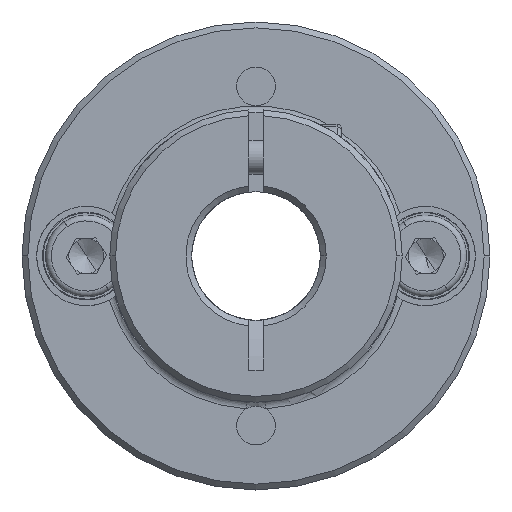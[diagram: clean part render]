
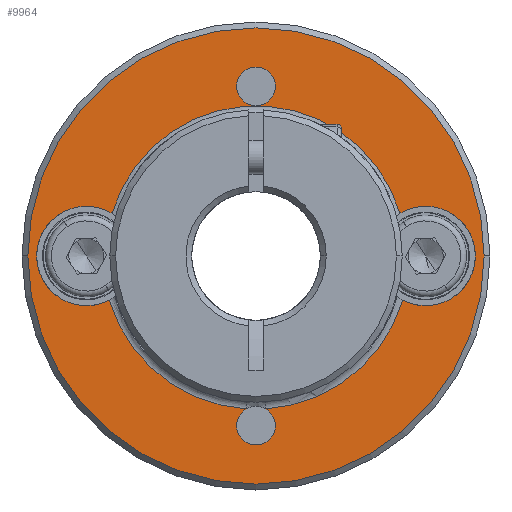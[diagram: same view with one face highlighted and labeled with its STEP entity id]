
A CAD part, front view. The second image highlights one B-rep face of the part: STEP entity #9964.
In plain terms, the highlighted planar face has unit normal (0, -1, 0).
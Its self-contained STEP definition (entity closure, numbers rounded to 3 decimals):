
#209 = ORIENTED_EDGE ( 'NONE', *, *, #12214, .T. ) ;
#256 = CARTESIAN_POINT ( 'NONE',  ( 6.745, -13.63, 40. ) ) ;
#330 = AXIS2_PLACEMENT_3D ( 'NONE', #5366, #1299, #7157 ) ;
#436 = CIRCLE ( 'NONE', #4893, 4.25 ) ;
#499 = EDGE_CURVE ( 'NONE', #5381, #10921, #7078, .T. ) ;
#591 = AXIS2_PLACEMENT_3D ( 'NONE', #2245, #9118, #4207 ) ;
#791 = VERTEX_POINT ( 'NONE', #7278 ) ;
#816 = DIRECTION ( 'NONE',  ( 0., 1., 0. ) ) ;
#820 = CIRCLE ( 'NONE', #8168, 4.25 ) ;
#869 = DIRECTION ( 'NONE',  ( 0., 1., 0. ) ) ;
#930 = ORIENTED_EDGE ( 'NONE', *, *, #5761, .T. ) ;
#975 = DIRECTION ( 'NONE',  ( 1., 0., 0. ) ) ;
#986 = DIRECTION ( 'NONE',  ( 0., -1., 0. ) ) ;
#1019 = ORIENTED_EDGE ( 'NONE', *, *, #8368, .T. ) ;
#1157 = CARTESIAN_POINT ( 'NONE',  ( -13.655, -13.63, 25.5 ) ) ;
#1216 = ORIENTED_EDGE ( 'NONE', *, *, #4668, .T. ) ;
#1274 = ORIENTED_EDGE ( 'NONE', *, *, #4479, .T. ) ;
#1295 = CARTESIAN_POINT ( 'NONE',  ( -24.307, -13.63, 43.638 ) ) ;
#1299 = DIRECTION ( 'NONE',  ( 0., -1., 0. ) ) ;
#1344 = DIRECTION ( 'NONE',  ( 1., 0., 0. ) ) ;
#1684 = CARTESIAN_POINT ( 'NONE',  ( 7.495, -13.63, 40. ) ) ;
#1743 = AXIS2_PLACEMENT_3D ( 'NONE', #8625, #2826, #12536 ) ;
#1805 = ORIENTED_EDGE ( 'NONE', *, *, #12613, .T. ) ;
#1837 = AXIS2_PLACEMENT_3D ( 'NONE', #7908, #986, #6781 ) ;
#1994 = CARTESIAN_POINT ( 'NONE',  ( -13.655, -13.63, 54.5 ) ) ;
#2041 = VERTEX_POINT ( 'NONE', #256 ) ;
#2130 = AXIS2_PLACEMENT_3D ( 'NONE', #3949, #3005, #9895 ) ;
#2222 = EDGE_CURVE ( 'NONE', #8098, #8313, #8996, .T. ) ;
#2245 = CARTESIAN_POINT ( 'NONE',  ( -12.005, -13.63, 40. ) ) ;
#2262 = CARTESIAN_POINT ( 'NONE',  ( -26.505, -13.63, 40. ) ) ;
#2510 = CARTESIAN_POINT ( 'NONE',  ( -12.834, -13.63, 26.926 ) ) ;
#2826 = DIRECTION ( 'NONE',  ( 0., 1., 0. ) ) ;
#2849 = CIRCLE ( 'NONE', #12011, 4.25 ) ;
#2976 = CARTESIAN_POINT ( 'NONE',  ( -10.355, -13.63, 25.5 ) ) ;
#3005 = DIRECTION ( 'NONE',  ( 0., -1., 0. ) ) ;
#3138 = FACE_OUTER_BOUND ( 'NONE', #9998, .T. ) ;
#3874 = DIRECTION ( 'NONE',  ( 1., 0., 0. ) ) ;
#3890 = VERTEX_POINT ( 'NONE', #1994 ) ;
#3949 = CARTESIAN_POINT ( 'NONE',  ( -12.005, -13.63, 40. ) ) ;
#4207 = DIRECTION ( 'NONE',  ( 1., 0., 0. ) ) ;
#4239 = AXIS2_PLACEMENT_3D ( 'NONE', #4907, #11692, #975 ) ;
#4420 = ORIENTED_EDGE ( 'NONE', *, *, #10408, .T. ) ;
#4468 = CIRCLE ( 'NONE', #8197, 1.65 ) ;
#4479 = EDGE_CURVE ( 'NONE', #11056, #5381, #10470, .T. ) ;
#4668 = EDGE_CURVE ( 'NONE', #11290, #11056, #4922, .T. ) ;
#4684 = DIRECTION ( 'NONE',  ( 1., 0., 0. ) ) ;
#4763 = ORIENTED_EDGE ( 'NONE', *, *, #499, .T. ) ;
#4893 = AXIS2_PLACEMENT_3D ( 'NONE', #6717, #7717, #4684 ) ;
#4907 = CARTESIAN_POINT ( 'NONE',  ( -12.005, -13.63, 25.5 ) ) ;
#4922 = CIRCLE ( 'NONE', #591, 13.1 ) ;
#5072 = CIRCLE ( 'NONE', #1837, 19.5 ) ;
#5139 = CARTESIAN_POINT ( 'NONE',  ( -31.505, -13.63, 40. ) ) ;
#5184 = CIRCLE ( 'NONE', #4239, 1.65 ) ;
#5366 = CARTESIAN_POINT ( 'NONE',  ( -12.005, -13.63, 40. ) ) ;
#5381 = VERTEX_POINT ( 'NONE', #2976 ) ;
#5451 = AXIS2_PLACEMENT_3D ( 'NONE', #11631, #10661, #9718 ) ;
#5743 = CARTESIAN_POINT ( 'NONE',  ( -26.505, -13.63, 40. ) ) ;
#5761 = EDGE_CURVE ( 'NONE', #11044, #3890, #9286, .T. ) ;
#5797 = EDGE_CURVE ( 'NONE', #11837, #6839, #820, .T. ) ;
#6138 = DIRECTION ( 'NONE',  ( 1., 0., 0. ) ) ;
#6139 = DIRECTION ( 'NONE',  ( 0., 1., 0. ) ) ;
#6297 = CARTESIAN_POINT ( 'NONE',  ( -10.355, -13.63, 54.5 ) ) ;
#6315 = ORIENTED_EDGE ( 'NONE', *, *, #9032, .T. ) ;
#6632 = AXIS2_PLACEMENT_3D ( 'NONE', #8687, #869, #3874 ) ;
#6651 = DIRECTION ( 'NONE',  ( 1., 0., 0. ) ) ;
#6717 = CARTESIAN_POINT ( 'NONE',  ( 2.495, -13.63, 40. ) ) ;
#6781 = DIRECTION ( 'NONE',  ( 1., 0., 0. ) ) ;
#6803 = CIRCLE ( 'NONE', #11119, 4.25 ) ;
#6839 = VERTEX_POINT ( 'NONE', #1295 ) ;
#6935 = CARTESIAN_POINT ( 'NONE',  ( -24.55, -13.63, 36.226 ) ) ;
#7078 = CIRCLE ( 'NONE', #5451, 1.65 ) ;
#7157 = DIRECTION ( 'NONE',  ( 1., 0., 0. ) ) ;
#7203 = DIRECTION ( 'NONE',  ( 0., 1., 0. ) ) ;
#7239 = EDGE_CURVE ( 'NONE', #10917, #9842, #5072, .T. ) ;
#7278 = CARTESIAN_POINT ( 'NONE',  ( 0.298, -13.63, 43.638 ) ) ;
#7317 = CARTESIAN_POINT ( 'NONE',  ( -11.175, -13.63, 26.926 ) ) ;
#7652 = CARTESIAN_POINT ( 'NONE',  ( 0.54, -13.63, 36.226 ) ) ;
#7717 = DIRECTION ( 'NONE',  ( 0., 1., 0. ) ) ;
#7893 = ORIENTED_EDGE ( 'NONE', *, *, #7239, .T. ) ;
#7905 = PLANE ( 'NONE',  #2130 ) ;
#7908 = CARTESIAN_POINT ( 'NONE',  ( -12.005, -13.63, 40. ) ) ;
#7997 = CARTESIAN_POINT ( 'NONE',  ( -12.005, -13.63, 25.5 ) ) ;
#8098 = VERTEX_POINT ( 'NONE', #2510 ) ;
#8168 = AXIS2_PLACEMENT_3D ( 'NONE', #5743, #816, #6651 ) ;
#8182 = CARTESIAN_POINT ( 'NONE',  ( -12.005, -13.63, 40. ) ) ;
#8197 = AXIS2_PLACEMENT_3D ( 'NONE', #9172, #10279, #1344 ) ;
#8313 = VERTEX_POINT ( 'NONE', #6935 ) ;
#8368 = EDGE_CURVE ( 'NONE', #6839, #791, #9334, .T. ) ;
#8585 = EDGE_LOOP ( 'NONE', ( #6315, #11937, #1019, #9814, #1805, #1216, #1274, #4763, #209, #10410 ) ) ;
#8625 = CARTESIAN_POINT ( 'NONE',  ( -12.005, -13.63, 54.5 ) ) ;
#8687 = CARTESIAN_POINT ( 'NONE',  ( -12.005, -13.63, 40. ) ) ;
#8996 = CIRCLE ( 'NONE', #6632, 13.1 ) ;
#9032 = EDGE_CURVE ( 'NONE', #8313, #11837, #2849, .T. ) ;
#9047 = DIRECTION ( 'NONE',  ( 1., 0., 0. ) ) ;
#9076 = CARTESIAN_POINT ( 'NONE',  ( 2.495, -13.63, 40. ) ) ;
#9118 = DIRECTION ( 'NONE',  ( 0., 1., 0. ) ) ;
#9129 = FACE_BOUND ( 'NONE', #8585, .T. ) ;
#9172 = CARTESIAN_POINT ( 'NONE',  ( -12.005, -13.63, 54.5 ) ) ;
#9286 = CIRCLE ( 'NONE', #1743, 1.65 ) ;
#9334 = CIRCLE ( 'NONE', #12509, 12.829 ) ;
#9718 = DIRECTION ( 'NONE',  ( 1., 0., 0. ) ) ;
#9814 = ORIENTED_EDGE ( 'NONE', *, *, #10390, .T. ) ;
#9824 = DIRECTION ( 'NONE',  ( 1., 0., 0. ) ) ;
#9842 = VERTEX_POINT ( 'NONE', #1684 ) ;
#9863 = DIRECTION ( 'NONE',  ( 0., 1., 0. ) ) ;
#9895 = DIRECTION ( 'NONE',  ( 1., 0., 0. ) ) ;
#9964 = ADVANCED_FACE ( 'NONE', ( #3138, #9129, #11139 ), #7905, .T. ) ;
#9998 = EDGE_LOOP ( 'NONE', ( #7893, #4420 ) ) ;
#10045 = CIRCLE ( 'NONE', #330, 19.5 ) ;
#10159 = DIRECTION ( 'NONE',  ( 1., 0., 0. ) ) ;
#10279 = DIRECTION ( 'NONE',  ( 0., 1., 0. ) ) ;
#10377 = ORIENTED_EDGE ( 'NONE', *, *, #10513, .T. ) ;
#10390 = EDGE_CURVE ( 'NONE', #791, #2041, #6803, .T. ) ;
#10408 = EDGE_CURVE ( 'NONE', #9842, #10917, #10045, .T. ) ;
#10410 = ORIENTED_EDGE ( 'NONE', *, *, #2222, .T. ) ;
#10470 = CIRCLE ( 'NONE', #12051, 1.65 ) ;
#10513 = EDGE_CURVE ( 'NONE', #3890, #11044, #4468, .T. ) ;
#10661 = DIRECTION ( 'NONE',  ( 0., 1., 0. ) ) ;
#10917 = VERTEX_POINT ( 'NONE', #5139 ) ;
#10921 = VERTEX_POINT ( 'NONE', #1157 ) ;
#11044 = VERTEX_POINT ( 'NONE', #6297 ) ;
#11056 = VERTEX_POINT ( 'NONE', #7317 ) ;
#11119 = AXIS2_PLACEMENT_3D ( 'NONE', #9076, #6139, #10159 ) ;
#11139 = FACE_BOUND ( 'NONE', #12510, .T. ) ;
#11290 = VERTEX_POINT ( 'NONE', #7652 ) ;
#11631 = CARTESIAN_POINT ( 'NONE',  ( -12.005, -13.63, 25.5 ) ) ;
#11692 = DIRECTION ( 'NONE',  ( 0., 1., 0. ) ) ;
#11837 = VERTEX_POINT ( 'NONE', #12015 ) ;
#11937 = ORIENTED_EDGE ( 'NONE', *, *, #5797, .T. ) ;
#11995 = DIRECTION ( 'NONE',  ( 0., 1., 0. ) ) ;
#12011 = AXIS2_PLACEMENT_3D ( 'NONE', #2262, #11995, #9047 ) ;
#12015 = CARTESIAN_POINT ( 'NONE',  ( -30.755, -13.63, 40. ) ) ;
#12051 = AXIS2_PLACEMENT_3D ( 'NONE', #7997, #9863, #9824 ) ;
#12214 = EDGE_CURVE ( 'NONE', #10921, #8098, #5184, .T. ) ;
#12509 = AXIS2_PLACEMENT_3D ( 'NONE', #8182, #7203, #6138 ) ;
#12510 = EDGE_LOOP ( 'NONE', ( #10377, #930 ) ) ;
#12536 = DIRECTION ( 'NONE',  ( 1., 0., 0. ) ) ;
#12613 = EDGE_CURVE ( 'NONE', #2041, #11290, #436, .T. ) ;
